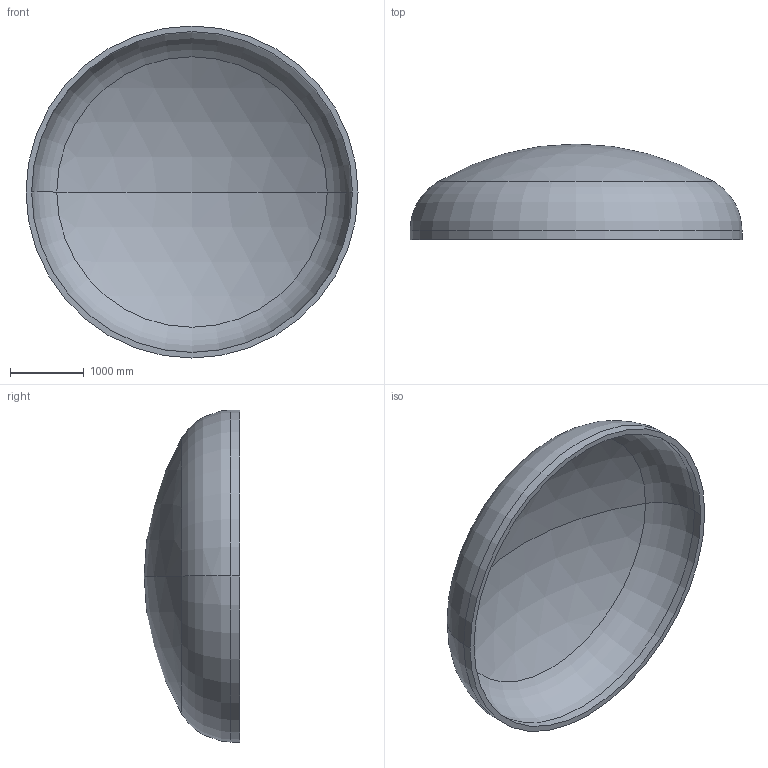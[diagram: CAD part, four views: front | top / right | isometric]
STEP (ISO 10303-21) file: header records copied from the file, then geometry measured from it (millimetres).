
FILE_DESCRIPTION (( 'STEP AP203' ), '1' );
FILE_NAME ('DIN 28013 Korbbogenform_-_Boden DIN 28013 - 4500 x 120 - I - s=76.step', '2016-07-01T23:41:58', ( '' ), ( '' ), 'SwSTEP 2.0', 'SolidWorks 2013', '' );
FILE_SCHEMA (( 'CONFIG_CONTROL_DESIGN' ));
Length unit declared in the file: millimetre
Products named in the file (1): DIN 28013 Korbbogenform_-_Boden DIN 28013 - 4500 x 120 - I - s=76
Bounding box: 4500 x 1295.68 x 4500 mm (x, y, z)
Volume: 1764873244.7 mm3; surface area: 47512392.2 mm2
Topology: 1 solids, 1 shells, 13 faces, 24 edges, 14 vertices
Faces by surface type: torus 4, cylinder 4, sphere 4, plane 1
Entity records: 407 total; most frequent: DIRECTION 72, CARTESIAN_POINT 52, ORIENTED_EDGE 48, AXIS2_PLACEMENT_3D 34, EDGE_CURVE 24, CIRCLE 20, VERTEX_POINT 14, EDGE_LOOP 14
